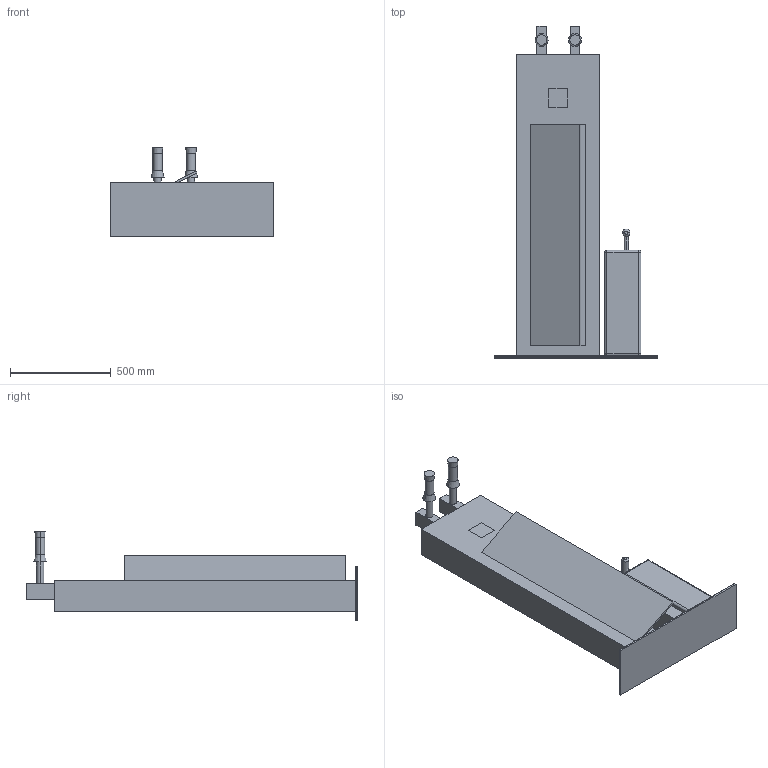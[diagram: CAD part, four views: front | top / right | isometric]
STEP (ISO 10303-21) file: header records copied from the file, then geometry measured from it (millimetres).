
FILE_DESCRIPTION (( 'STEP AP203' ), '1' );
FILE_NAME ('WYF1920.STEP', '2025-10-06T08:11:05', ( '' ), ( '' ), 'SwSTEP 2.0', 'SolidWorks 2025', '' );
FILE_SCHEMA (( 'CONFIG_CONTROL_DESIGN' ));
Length unit declared in the file: millimetre
Products named in the file (6): air pomp_Predeterminado; BASE STEEL WYF1920; tube support_Predeterminado; plate floor; WYF1920; DOOR WYF1920
Assembly tree (6 placements, depth 2):
  WYF1920
    plate floor
    air pomp_Predeterminado
    BASE STEEL WYF1920
    DOOR WYF1920
    tube support_Predeterminado  x2
Bounding box: 811.84 x 1650 x 440.9 mm (x, y, z)
Volume: 77902222 mm3; surface area: 3858895.8 mm2
Topology: 9 solids, 9 shells, 107 faces, 216 edges, 128 vertices
Faces by surface type: plane 59, cylinder 28, sphere 8, cone 8, torus 4
Entity records: 2876 total; most frequent: DIRECTION 418, CARTESIAN_POINT 385, ORIENTED_EDGE 344, EDGE_CURVE 172, AXIS2_PLACEMENT_3D 153, VECTOR 112, LINE 112, VERTEX_POINT 104
